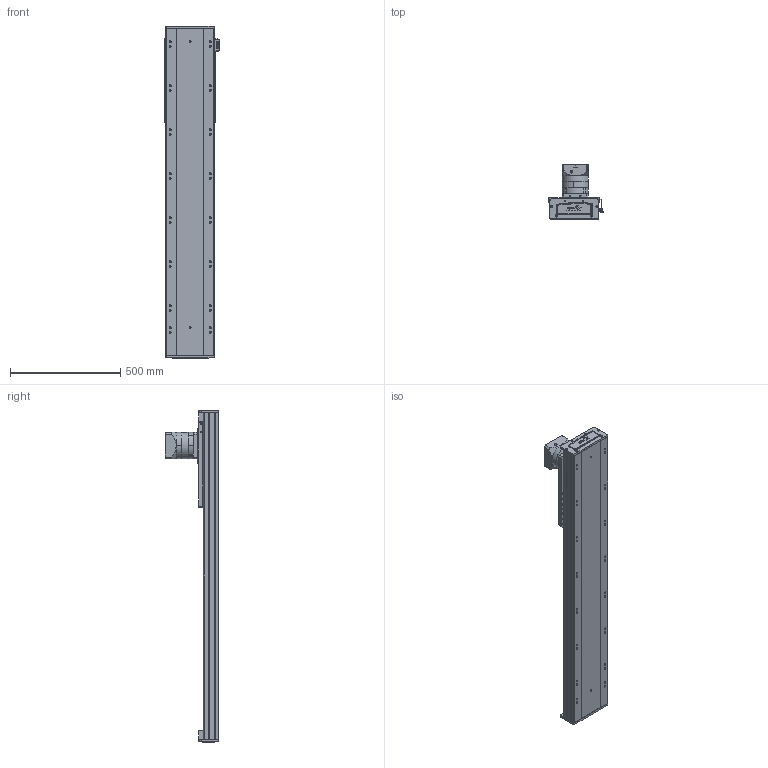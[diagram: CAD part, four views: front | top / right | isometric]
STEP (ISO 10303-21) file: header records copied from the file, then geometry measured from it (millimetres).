
FILE_DESCRIPTION (( 'STEP AP203' ), '1' );
FILE_NAME ('RY220-C-300-UK.SLDASM_1000.step', '2022-08-01T05:59:00', ( '' ), ( '' ), 'SwSTEP 2.0', 'SolidWorks 2016', '' );
FILE_SCHEMA (( 'CONFIG_CONTROL_DESIGN' ));
Length unit declared in the file: millimetre
Products named in the file (10): RY220喘沭賑輸; RY220喘沭綴裔啣; 滅袉蝶輸ㄗG412隅秶ㄘ; 覜茼ん674; RY220-齿条模组电机安装板; RY220喘沭俋离覜茼え; PF115L1-S2-22-58-110-145-M8; RY220菁釱MK-300_1000; RY220-C-300-UK.SLDASM_1000; RY140直线电机感应器674光电安装座
Assembly tree (12 placements, depth 2):
  RY220-C-300-UK.SLDASM_1000
    RY220菁釱MK-300_1000
    RY220喘沭賑輸
    RY220-齿条模组电机安装板
    PF115L1-S2-22-58-110-145-M8
    RY220喘沭綴裔啣  x2
    滅袉蝶輸ㄗG412隅秶ㄘ  x2
    RY140直线电机感应器674光电安装座
    覜茼ん674  x2
    RY220喘沭俋离覜茼え
Bounding box: 247 x 244.5 x 1509 mm (x, y, z)
Volume: 12393798.7 mm3; surface area: 2430253.9 mm2
Topology: 18 solids, 26 shells, 1970 faces, 5279 edges, 3364 vertices
Faces by surface type: cylinder 897, plane 751, bspline 162, cone 160
Entity records: 62285 total; most frequent: CARTESIAN_POINT 17182, DIRECTION 9191, ORIENTED_EDGE 9138, EDGE_CURVE 4569, AXIS2_PLACEMENT_3D 3481, VERTEX_POINT 2990, LINE 2229, VECTOR 2229
